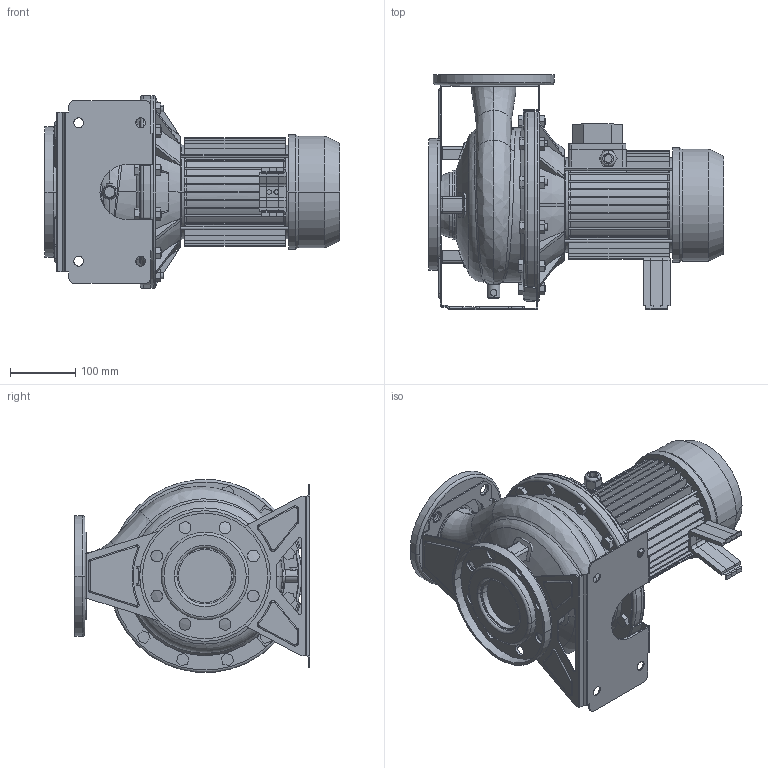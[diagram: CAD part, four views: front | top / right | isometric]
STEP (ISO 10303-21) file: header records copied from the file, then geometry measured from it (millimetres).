
FILE_DESCRIPTION((''),'2;1');
FILE_NAME('3M4_65-160_1_1_IE2_ASM','2012-03-14T',('Rosa'),('"Ebara Pumps Europe +39.444.706811"'),'PRO/ENGINEER BY PARAMETRIC TECHNOLOGY CORPORATION, 2009360','PRO/ENGINEER BY PARAMETRIC TECHNOLOGY CORPORATION, 2009360','');
FILE_SCHEMA(('AUTOMOTIVE_DESIGN { 1 0 10303 214 1 1 1 1 }'));
Length unit declared in the file: millimetre
Products named in the file (11): CORPO_65-160; ASP_65-160; FLANGIA_DIN_80_8_FORI; MAND_65-160; FLANGIA_DIN_65; BASE_3M_65-160; CORPO_SALDATO_65-160_ASM; SUPPORTO_3M_230_90; MEC_90X120_IE2; SOSTEGNO_72006; 3M4_65-160_1_1_IE2_ASM
Assembly tree (11 placements, depth 3):
  3M4_65-160_1_1_IE2_ASM
    CORPO_SALDATO_65-160_ASM
      CORPO_65-160
      ASP_65-160
      FLANGIA_DIN_80_8_FORI
      MAND_65-160
      FLANGIA_DIN_65
      BASE_3M_65-160
    SUPPORTO_3M_230_90
    MEC_90X120_IE2
    SOSTEGNO_72006  x2
Bounding box: 452 x 360 x 295.13 mm (x, y, z)
Volume: 10771346.3 mm3; surface area: 1279971.6 mm2
Topology: 13 solids, 13 shells, 1163 faces, 2975 edges, 1906 vertices
Faces by surface type: plane 643, cylinder 331, cone 90, torus 60, bspline 33, sphere 6
Entity records: 49551 total; most frequent: CARTESIAN_POINT 10172, DIRECTION 5894, ORIENTED_EDGE 5782, PRESENTATION_STYLE_ASSIGNMENT 2903, STYLED_ITEM 2903, CURVE_STYLE 2891, EDGE_CURVE 2891, AXIS2_PLACEMENT_3D 2114
